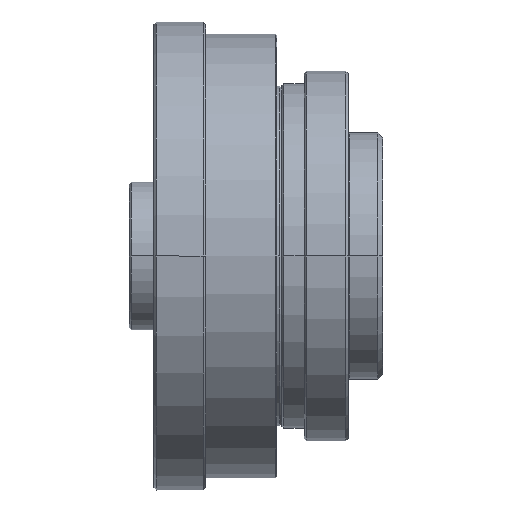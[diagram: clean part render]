
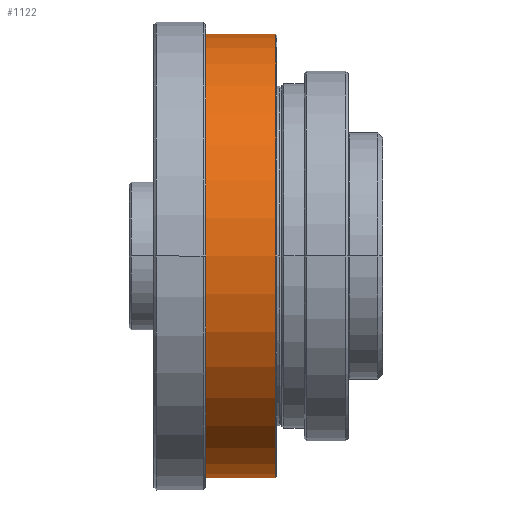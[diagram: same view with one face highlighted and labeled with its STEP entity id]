
A CAD part, front view. The second image highlights one B-rep face of the part: STEP entity #1122.
In plain terms, the highlighted cylindrical face has radius 45 mm (diameter 90 mm), a partial arc.
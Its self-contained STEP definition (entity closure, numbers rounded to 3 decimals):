
#1122=ADVANCED_FACE('NONE',(#2537),#2538,.T.);
#2537=FACE_OUTER_BOUND('',#4452,.T.);
#2538=CYLINDRICAL_SURFACE('',#4453,45.0);
#4452=EDGE_LOOP('',(#7592,#7593,#7594,#7595,#7596));
#4453=AXIS2_PLACEMENT_3D('',#7597,#7598,#7599);
#7592=ORIENTED_EDGE('',*,*,#10143,.F.);
#7593=ORIENTED_EDGE('',*,*,#10958,.T.);
#7594=ORIENTED_EDGE('',*,*,#10136,.T.);
#7595=ORIENTED_EDGE('',*,*,#10144,.T.);
#7596=ORIENTED_EDGE('',*,*,#10925,.F.);
#7597=CARTESIAN_POINT('',(16.25,0.0,0.0));
#7598=DIRECTION('',(-1.0,0.0,0.0));
#7599=DIRECTION('',(0.0,0.0,-1.0));
#10136=EDGE_CURVE('NONE',#12099,#12100,#12101,.T.);
#10143=EDGE_CURVE('NONE',#12110,#12078,#12112,.T.);
#10144=EDGE_CURVE('NONE',#12100,#12076,#12113,.T.);
#10925=EDGE_CURVE('NONE',#12078,#12076,#13336,.T.);
#10958=EDGE_CURVE('NONE',#12110,#12099,#13393,.T.);
#12076=VERTEX_POINT('NONE',#14767);
#12078=VERTEX_POINT('NONE',#14770);
#12099=VERTEX_POINT('NONE',#14796);
#12100=VERTEX_POINT('NONE',#14797);
#12101=CIRCLE('',#14798,45.);
#12110=VERTEX_POINT('NONE',#14809);
#12112=LINE('',#14811,#14812);
#12113=LINE('',#14813,#14814);
#13336=CIRCLE('',#16345,45.);
#13393=CIRCLE('',#16426,45.);
#14767=CARTESIAN_POINT('',(24.8,0.0,-45.));
#14770=CARTESIAN_POINT('',(24.8,0.,45.));
#14796=CARTESIAN_POINT('',(10.,-45.,0.));
#14797=CARTESIAN_POINT('',(10.,0.,-45.));
#14798=AXIS2_PLACEMENT_3D('',#17689,#17690,#17691);
#14809=CARTESIAN_POINT('',(10.,0.,45.));
#14811=CARTESIAN_POINT('',(16.25,0.,45.0));
#14812=VECTOR('',#17703,1000.0);
#14813=CARTESIAN_POINT('',(16.25,0.0,-45.0));
#14814=VECTOR('',#17704,1000.0);
#16345=AXIS2_PLACEMENT_3D('',#18955,#18956,#18957);
#16426=AXIS2_PLACEMENT_3D('',#18985,#18986,#18987);
#17689=CARTESIAN_POINT('',(10.,0.,0.));
#17690=DIRECTION('',(1.0,0.,0.));
#17691=DIRECTION('',(0.,1.0,0.));
#17703=DIRECTION('',(1.0,0.0,0.0));
#17704=DIRECTION('',(1.0,0.0,0.0));
#18955=CARTESIAN_POINT('',(24.8,0.0,0.0));
#18956=DIRECTION('',(1.0,0.0,-0.0));
#18957=DIRECTION('',(0.0,0.0,1.0));
#18985=CARTESIAN_POINT('',(10.,0.,0.));
#18986=DIRECTION('',(1.0,0.,0.));
#18987=DIRECTION('',(0.,1.0,0.));
